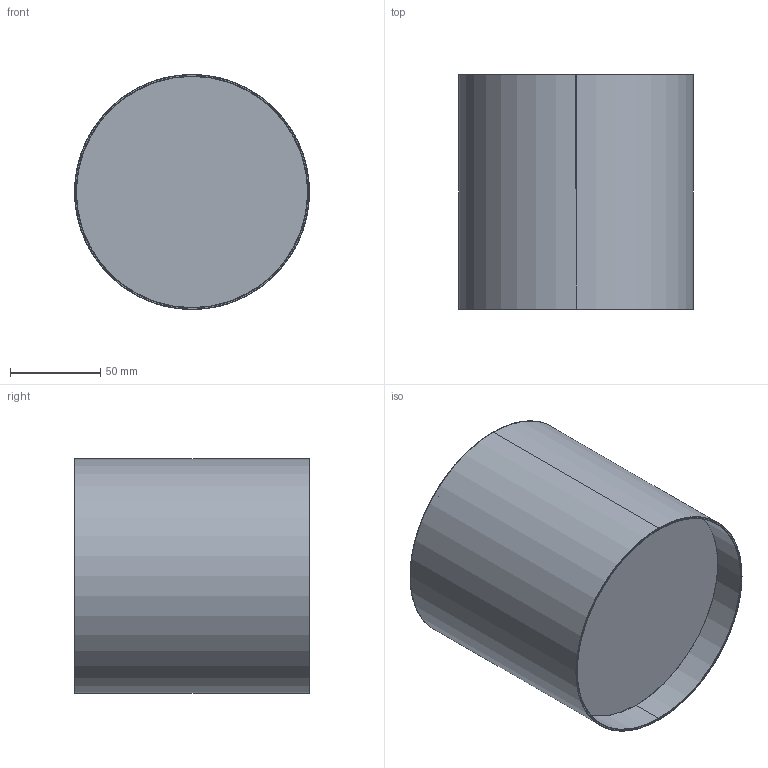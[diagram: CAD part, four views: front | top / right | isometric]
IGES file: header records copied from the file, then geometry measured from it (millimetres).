
Start section: SolidWorks IGES file using analytic representation for surfaces
Global section: file name: C:\Users\ppp\Desktop\Nowodvorski\Modele 3D_lampy\Point Plexi\3Ds\PointPlexi_oprawa_13cm.IGS; native system: SolidWorks 2012; preprocessor: SolidWorks 2012; author: ppp; date: 150724.132543; units: millimetre
Bounding box: 130 x 130 x 130 mm (x, y, z)
Surface area: 168841.4 mm2 (no closed solid volume)
Topology: 0 solids, 0 shells, 26 faces, 712 edges, 712 vertices
Faces by surface type: bspline 16, revolution 10
